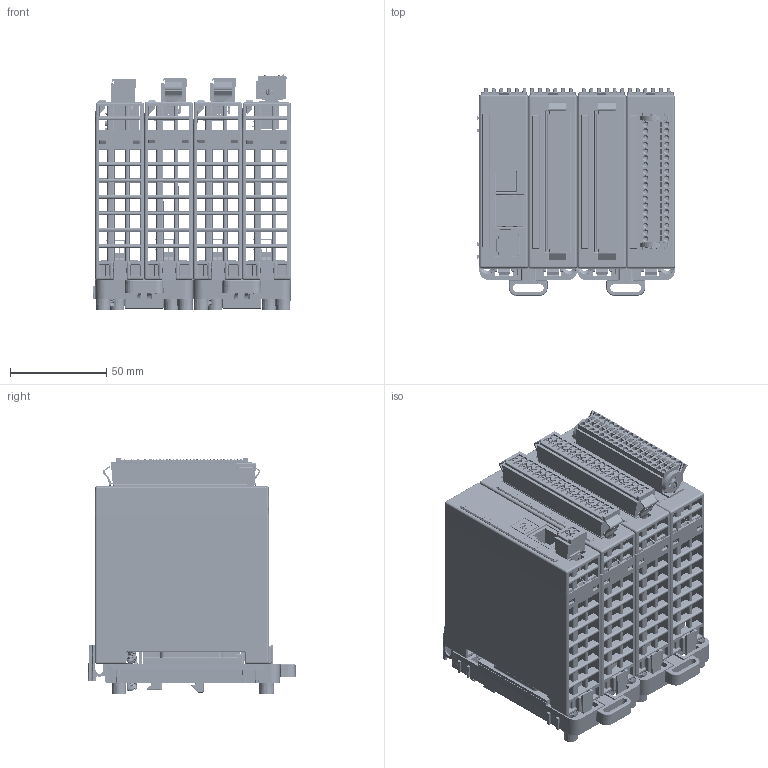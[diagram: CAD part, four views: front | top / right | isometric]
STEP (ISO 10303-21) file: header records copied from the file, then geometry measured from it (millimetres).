
FILE_DESCRIPTION((''),'2;1');
FILE_NAME('R_BUS4_ASSY','2019-06-07T11:54:05',('paolo.garatti'),('GEFRAN S.p.A via Carducci,24 21040 Gerenzano (VA)'),'CREO PARAMETRIC BY PTC INC, 2018300','CREO PARAMETRIC BY PTC INC, 2018300','');
FILE_SCHEMA(('AUTOMOTIVE_DESIGN { 1 0 10303 214 1 1 1 1 }'));
Products named in the file (96): 5661DX; 5664DX; 4920D_452601; 5662DX; R_BUS4; 5659DX; 4891DX; 4894D_452525; PRESA_RETE; ROTARY; CONN_WAGO_2PIN; CONN_3X18M_90_KONTEK; MOLLA; 5660DX; 734120037000-2POLI_DX_AF0; 734120037000-2POLI_SX_AF0; 734120037000-2POLI; R_ETH100; 5663DX; 4893D_452533; 734180; 734120037000; R_E16; R_U16; 4890D_452564; 5665DX; 1728620000; MSBR-65; MSBR-64; MSBR-63; MSBR-62; MSBR-61; MSBR-60; MSBR-59; MSBR-58; MSBR-57; MSBR-56; MSBR-55; MSBR-54; MSBR-53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
Assembly tree (114 placements, depth 4):
  R_BUS4_ASSY
    R_BUS4
      5661DX  x2
      5664DX  x2
      4920D_452601
      5662DX  x2
    R_ETH100
      5659DX
      4891DX
      4894D_452525
      PRESA_RETE
      ROTARY
      CONN_WAGO_2PIN
      CONN_3X18M_90_KONTEK
      MOLLA
      5660DX
      734120037000-2POLI
        734120037000-2POLI_DX_AF0
        734120037000-2POLI_SX_AF0
    R_E16
      5659DX
      5663DX
      4893D_452533
      MOLLA
      CONN_3X18M_90_KONTEK
      5660DX
      734180
      734120037000
    R_U16
      5659DX
      5663DX
      4893D_452533
      MOLLA
      CONN_3X18M_90_KONTEK
      5660DX
      734180
      734120037000
    R_TC8
      5659DX
      4890D_452564
      5665DX
      MOLLA
      CONN_3X18M_90_KONTEK
      1728620000
      5660DX
      B2L_3_5_36LH_SN_SW_1748640000
        MSBR-65
        MSBR-64
        MSBR-63
        MSBR-62
        MSBR-61
        MSBR-60
        MSBR-59
        MSBR-58
        MSBR-57
        MSBR-56
        MSBR-55
        MSBR-54
        MSBR-53
        MSBR-52
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Bounding box: 102.85 x 107.64 x 122.31 mm (x, y, z)
Volume: 301502.8 mm3; surface area: 399741.9 mm2
Topology: 107 solids, 107 shells, 23924 faces, 69158 edges, 46145 vertices
Faces by surface type: plane 17349, cylinder 4968, bspline 1008, cone 276, sphere 247, torus 50, extrusion 24, revolution 2
Entity records: 642450 total; most frequent: CARTESIAN_POINT 127806, ORIENTED_EDGE 77728, DIRECTION 65732, EDGE_CURVE 38864, PRESENTATION_STYLE_ASSIGNMENT 35963, STYLED_ITEM 34780, CURVE_STYLE 30143, VECTOR 29161
